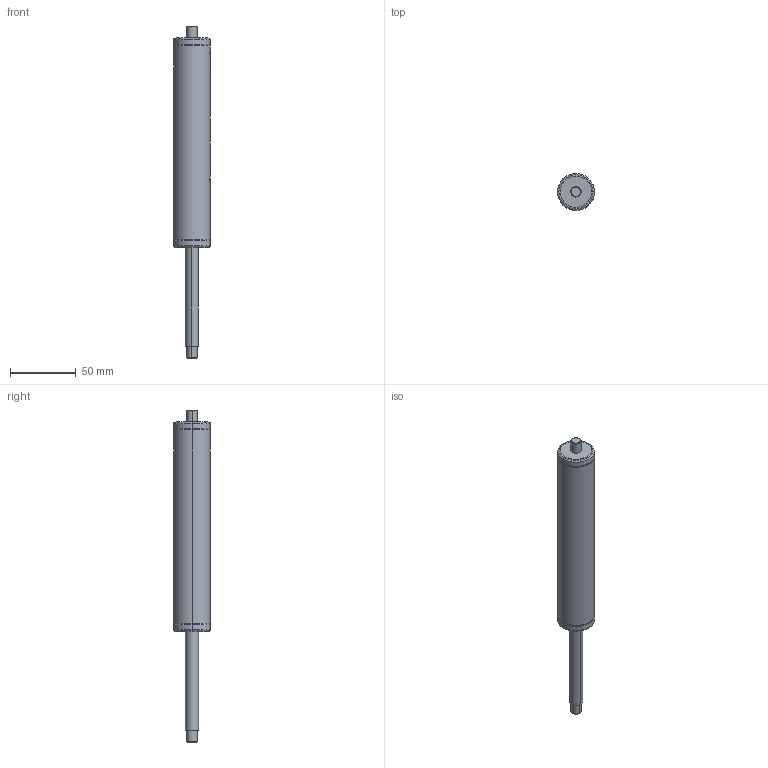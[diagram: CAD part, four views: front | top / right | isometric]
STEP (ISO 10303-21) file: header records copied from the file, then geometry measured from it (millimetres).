
FILE_DESCRIPTION (( 'STEP AP214' ), '1' );
FILE_NAME ('03.Z0751602351500F.STEP', '2018-05-06T16:07:22', ( '' ), ( '' ), 'SwSTEP 2.0', 'SolidWorks 2017', '' );
FILE_SCHEMA (( 'AUTOMOTIVE_DESIGN' ));
Length unit declared in the file: millimetre
Products named in the file (3): 03.Z0751602351500F_Veer; 03.Z0751602351500F_Cylinder; 03.Z0751602351500F
Assembly tree (2 placements, depth 2):
  03.Z0751602351500F
    03.Z0751602351500F_Cylinder
    03.Z0751602351500F_Veer
Bounding box: 28.1 x 28 x 253 mm (x, y, z)
Volume: 105958.7 mm3; surface area: 18582.4 mm2
Topology: 2 solids, 2 shells, 260 faces, 689 edges, 450 vertices
Faces by surface type: bspline 171, plane 35, cylinder 30, torus 20, cone 4
Entity records: 19352 total; most frequent: CARTESIAN_POINT 13728, ORIENTED_EDGE 1378, EDGE_CURVE 689, B_SPLINE_CURVE_WITH_KNOTS 538, VERTEX_POINT 450, DIRECTION 425, EDGE_LOOP 277, ADVANCED_FACE 260
